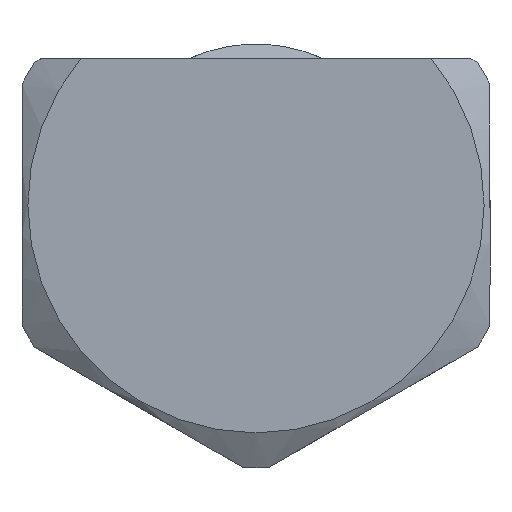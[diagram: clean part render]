
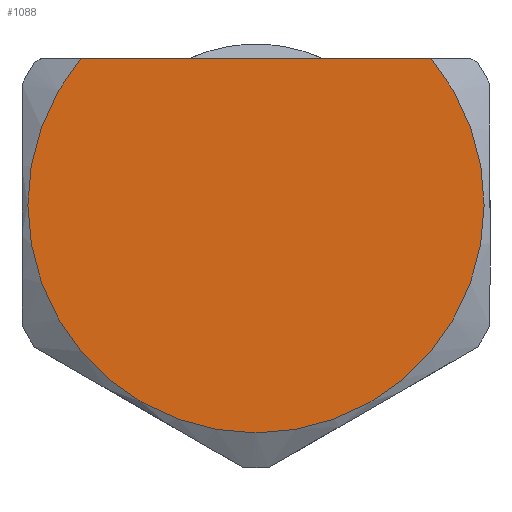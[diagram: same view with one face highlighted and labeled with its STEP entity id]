
A CAD part, front view. The second image highlights one B-rep face of the part: STEP entity #1088.
In plain terms, the highlighted planar face has unit normal (0, -1, 0).
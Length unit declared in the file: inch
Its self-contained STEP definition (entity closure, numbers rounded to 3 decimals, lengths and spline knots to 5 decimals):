
#97=PLANE('',#1235);
#142=FACE_OUTER_BOUND('',#204,.T.);
#204=EDGE_LOOP('',(#920,#921));
#252=LINE('',#1863,#300);
#300=VECTOR('',#1403,0.3937);
#374=CIRCLE('',#1233,0.975);
#460=VERTEX_POINT('',#1858);
#461=VERTEX_POINT('',#1862);
#589=EDGE_CURVE('',#461,#460,#252,.T.);
#647=EDGE_CURVE('',#461,#460,#374,.T.);
#920=ORIENTED_EDGE('',*,*,#589,.T.);
#921=ORIENTED_EDGE('',*,*,#647,.F.);
#1088=ADVANCED_FACE('',(#142),#97,.T.);
#1233=AXIS2_PLACEMENT_3D('',#2003,#1513,#1514);
#1235=AXIS2_PLACEMENT_3D('',#2005,#1517,#1518);
#1403=DIRECTION('',(-1.,0.,0.));
#1513=DIRECTION('center_axis',(0.,1.,0.));
#1514=DIRECTION('ref_axis',(0.,0.,1.));
#1517=DIRECTION('center_axis',(0.,-1.,0.));
#1518=DIRECTION('ref_axis',(0.,0.,-1.));
#1858=CARTESIAN_POINT('',(-0.74833,0.,0.625));
#1862=CARTESIAN_POINT('',(0.74833,0.,0.625));
#1863=CARTESIAN_POINT('',(0.45873,0.,0.625));
#2003=CARTESIAN_POINT('Origin',(0.,0.,0.));
#2005=CARTESIAN_POINT('Origin',(0.,0.,0.));
